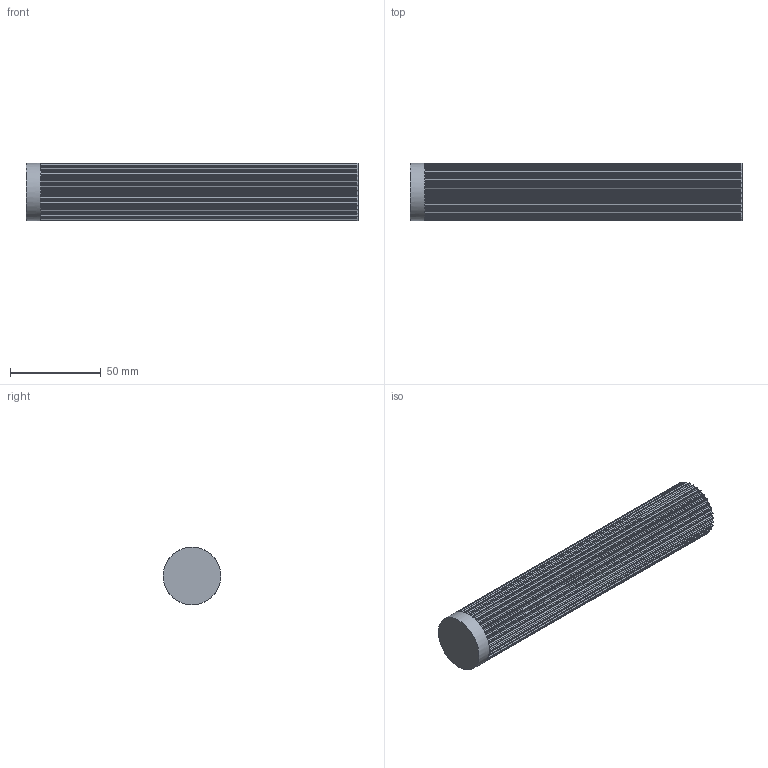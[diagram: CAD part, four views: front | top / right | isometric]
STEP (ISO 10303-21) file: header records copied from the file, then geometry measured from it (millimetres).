
FILE_DESCRIPTION( ( 'STEP AP214' ), '1' );
FILE_NAME( 'C:/Users/StangenbergN/Desktop/Steps Zahnriemenräder/K166_HTD-Zahnwellen/17093400.stp', '2019-06-06T09:34:52', ( '' ), ( '' ), ' ', 'PARTsolutions', ' ' );
FILE_SCHEMA( ( 'AUTOMOTIVE_DESIGN { 1 0 10303 214 1 1 1 1 }' ) );
Length unit declared in the file: millimetre
Products named in the file (1): _17093400
Bounding box: 183 x 31.71 x 31.71 mm (x, y, z)
Volume: 131865.1 mm3; surface area: 26145.8 mm2
Topology: 1 solids, 1 shells, 275 faces, 819 edges, 546 vertices
Faces by surface type: plane 138, cylinder 137
Full cylindrical faces by diameter (mm): 31.71 x1
Entity records: 11576 total; most frequent: DIRECTION 1710, CARTESIAN_POINT 1638, ORIENTED_EDGE 1634, EDGE_CURVE 817, AXIS2_PLACEMENT_3D 617, VERTEX_POINT 545, LINE 476, VECTOR 476
